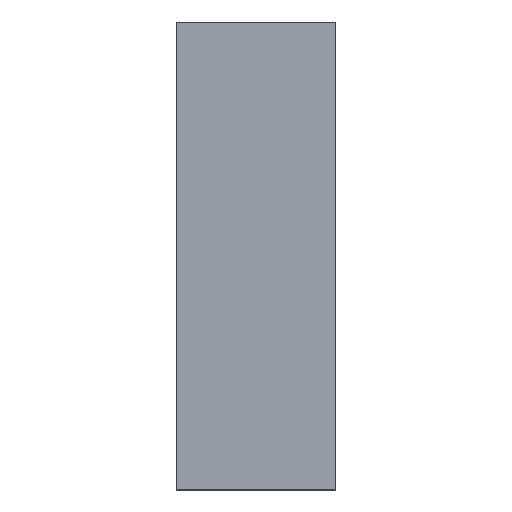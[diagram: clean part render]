
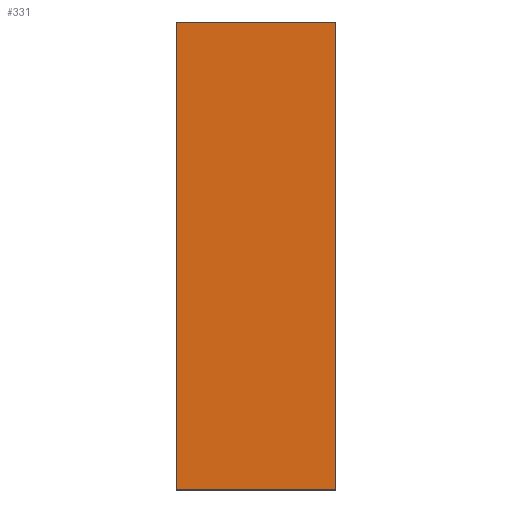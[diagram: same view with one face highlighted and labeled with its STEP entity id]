
A CAD part, top view. The second image highlights one B-rep face of the part: STEP entity #331.
In plain terms, the highlighted planar face has unit normal (0, 0, 1).
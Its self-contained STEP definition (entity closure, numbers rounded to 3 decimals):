
#22 = VERTEX_POINT('',#23);
#23 = CARTESIAN_POINT('',(145.,-138.913,81.875));
#32 = PLANE('',#33);
#33 = AXIS2_PLACEMENT_3D('',#34,#35,#36);
#34 = CARTESIAN_POINT('',(145.,-138.913,81.875));
#35 = DIRECTION('',(0.,1.,0.));
#36 = DIRECTION('',(-1.,0.,0.));
#44 = PLANE('',#45);
#45 = AXIS2_PLACEMENT_3D('',#46,#47,#48);
#46 = CARTESIAN_POINT('',(145.,-94.913,81.875));
#47 = DIRECTION('',(-1.,-0.,-0.));
#48 = DIRECTION('',(0.,-1.,0.));
#85 = VERTEX_POINT('',#86);
#86 = CARTESIAN_POINT('',(130.,-138.913,81.875));
#100 = PLANE('',#101);
#101 = AXIS2_PLACEMENT_3D('',#102,#103,#104);
#102 = CARTESIAN_POINT('',(130.,-138.913,81.875));
#103 = DIRECTION('',(1.,-0.,0.));
#104 = DIRECTION('',(0.,1.,0.));
#112 = EDGE_CURVE('',#22,#85,#113,.T.);
#113 = SURFACE_CURVE('',#114,(#118,#125),.PCURVE_S1.);
#114 = LINE('',#115,#116);
#115 = CARTESIAN_POINT('',(145.,-138.913,81.875));
#116 = VECTOR('',#117,1.);
#117 = DIRECTION('',(-1.,0.,0.));
#118 = PCURVE('',#32,#119);
#119 = DEFINITIONAL_REPRESENTATION('',(#120),#124);
#120 = LINE('',#121,#122);
#121 = CARTESIAN_POINT('',(0.,0.));
#122 = VECTOR('',#123,1.);
#123 = DIRECTION('',(1.,0.));
#124 = ( GEOMETRIC_REPRESENTATION_CONTEXT(2) 
PARAMETRIC_REPRESENTATION_CONTEXT() REPRESENTATION_CONTEXT('2D SPACE',''
  ) );
#125 = PCURVE('',#126,#131);
#126 = PLANE('',#127);
#127 = AXIS2_PLACEMENT_3D('',#128,#129,#130);
#128 = CARTESIAN_POINT('',(137.5,-116.913,81.875));
#129 = DIRECTION('',(-0.,-0.,-1.));
#130 = DIRECTION('',(-1.,0.,0.));
#131 = DEFINITIONAL_REPRESENTATION('',(#132),#136);
#132 = LINE('',#133,#134);
#133 = CARTESIAN_POINT('',(-7.5,-22.));
#134 = VECTOR('',#135,1.);
#135 = DIRECTION('',(1.,0.));
#136 = ( GEOMETRIC_REPRESENTATION_CONTEXT(2) 
PARAMETRIC_REPRESENTATION_CONTEXT() REPRESENTATION_CONTEXT('2D SPACE',''
  ) );
#166 = VERTEX_POINT('',#167);
#167 = CARTESIAN_POINT('',(130.,-94.913,81.875));
#181 = PLANE('',#182);
#182 = AXIS2_PLACEMENT_3D('',#183,#184,#185);
#183 = CARTESIAN_POINT('',(130.,-94.913,81.875));
#184 = DIRECTION('',(0.,-1.,0.));
#185 = DIRECTION('',(1.,0.,0.));
#193 = EDGE_CURVE('',#85,#166,#194,.T.);
#194 = SURFACE_CURVE('',#195,(#199,#206),.PCURVE_S1.);
#195 = LINE('',#196,#197);
#196 = CARTESIAN_POINT('',(130.,-138.913,81.875));
#197 = VECTOR('',#198,1.);
#198 = DIRECTION('',(0.,1.,0.));
#199 = PCURVE('',#100,#200);
#200 = DEFINITIONAL_REPRESENTATION('',(#201),#205);
#201 = LINE('',#202,#203);
#202 = CARTESIAN_POINT('',(0.,0.));
#203 = VECTOR('',#204,1.);
#204 = DIRECTION('',(1.,0.));
#205 = ( GEOMETRIC_REPRESENTATION_CONTEXT(2) 
PARAMETRIC_REPRESENTATION_CONTEXT() REPRESENTATION_CONTEXT('2D SPACE',''
  ) );
#206 = PCURVE('',#126,#207);
#207 = DEFINITIONAL_REPRESENTATION('',(#208),#212);
#208 = LINE('',#209,#210);
#209 = CARTESIAN_POINT('',(7.5,-22.));
#210 = VECTOR('',#211,1.);
#211 = DIRECTION('',(0.,1.));
#212 = ( GEOMETRIC_REPRESENTATION_CONTEXT(2) 
PARAMETRIC_REPRESENTATION_CONTEXT() REPRESENTATION_CONTEXT('2D SPACE',''
  ) );
#242 = VERTEX_POINT('',#243);
#243 = CARTESIAN_POINT('',(145.,-94.913,81.875));
#264 = EDGE_CURVE('',#166,#242,#265,.T.);
#265 = SURFACE_CURVE('',#266,(#270,#277),.PCURVE_S1.);
#266 = LINE('',#267,#268);
#267 = CARTESIAN_POINT('',(130.,-94.913,81.875));
#268 = VECTOR('',#269,1.);
#269 = DIRECTION('',(1.,0.,0.));
#270 = PCURVE('',#181,#271);
#271 = DEFINITIONAL_REPRESENTATION('',(#272),#276);
#272 = LINE('',#273,#274);
#273 = CARTESIAN_POINT('',(0.,0.));
#274 = VECTOR('',#275,1.);
#275 = DIRECTION('',(1.,0.));
#276 = ( GEOMETRIC_REPRESENTATION_CONTEXT(2) 
PARAMETRIC_REPRESENTATION_CONTEXT() REPRESENTATION_CONTEXT('2D SPACE',''
  ) );
#277 = PCURVE('',#126,#278);
#278 = DEFINITIONAL_REPRESENTATION('',(#279),#283);
#279 = LINE('',#280,#281);
#280 = CARTESIAN_POINT('',(7.5,22.));
#281 = VECTOR('',#282,1.);
#282 = DIRECTION('',(-1.,0.));
#283 = ( GEOMETRIC_REPRESENTATION_CONTEXT(2) 
PARAMETRIC_REPRESENTATION_CONTEXT() REPRESENTATION_CONTEXT('2D SPACE',''
  ) );
#311 = EDGE_CURVE('',#242,#22,#312,.T.);
#312 = SURFACE_CURVE('',#313,(#317,#324),.PCURVE_S1.);
#313 = LINE('',#314,#315);
#314 = CARTESIAN_POINT('',(145.,-94.913,81.875));
#315 = VECTOR('',#316,1.);
#316 = DIRECTION('',(0.,-1.,0.));
#317 = PCURVE('',#44,#318);
#318 = DEFINITIONAL_REPRESENTATION('',(#319),#323);
#319 = LINE('',#320,#321);
#320 = CARTESIAN_POINT('',(0.,0.));
#321 = VECTOR('',#322,1.);
#322 = DIRECTION('',(1.,0.));
#323 = ( GEOMETRIC_REPRESENTATION_CONTEXT(2) 
PARAMETRIC_REPRESENTATION_CONTEXT() REPRESENTATION_CONTEXT('2D SPACE',''
  ) );
#324 = PCURVE('',#126,#325);
#325 = DEFINITIONAL_REPRESENTATION('',(#326),#330);
#326 = LINE('',#327,#328);
#327 = CARTESIAN_POINT('',(-7.5,22.));
#328 = VECTOR('',#329,1.);
#329 = DIRECTION('',(0.,-1.));
#330 = ( GEOMETRIC_REPRESENTATION_CONTEXT(2) 
PARAMETRIC_REPRESENTATION_CONTEXT() REPRESENTATION_CONTEXT('2D SPACE',''
  ) );
#331 = ADVANCED_FACE('',(#332),#126,.F.);
#332 = FACE_BOUND('',#333,.F.);
#333 = EDGE_LOOP('',(#334,#335,#336,#337));
#334 = ORIENTED_EDGE('',*,*,#112,.T.);
#335 = ORIENTED_EDGE('',*,*,#193,.T.);
#336 = ORIENTED_EDGE('',*,*,#264,.T.);
#337 = ORIENTED_EDGE('',*,*,#311,.T.);
